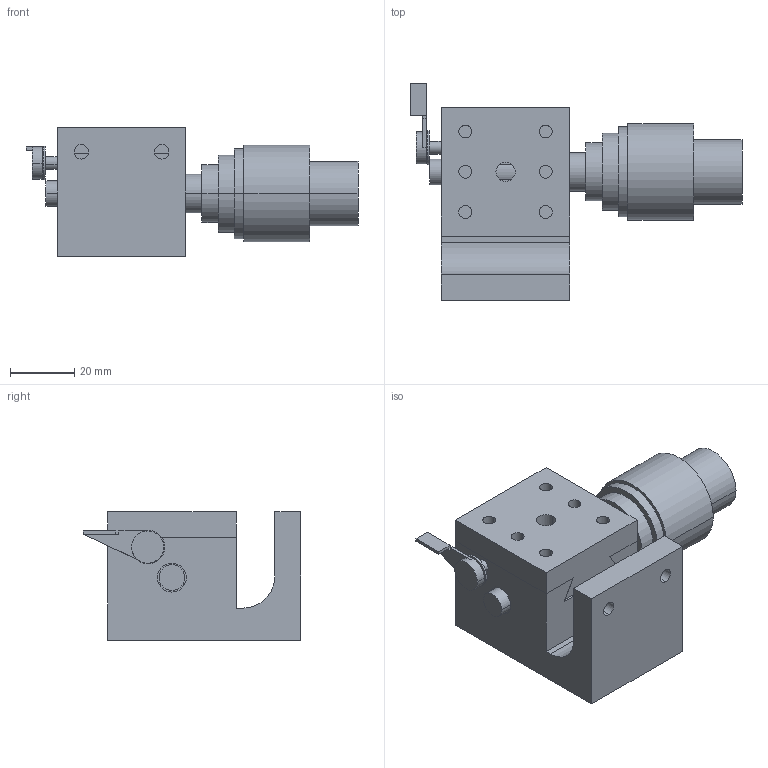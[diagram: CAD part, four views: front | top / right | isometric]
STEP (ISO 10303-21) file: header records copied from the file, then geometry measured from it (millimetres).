
FILE_DESCRIPTION (( 'STEP AP203' ), '1' );
FILE_NAME ('LV-412S.STEP', '2008-03-03T08:44:33', ( '' ), ( '' ), 'SwSTEP 2.0', 'SolidWorks 2007', '' );
FILE_SCHEMA (( 'CONFIG_CONTROL_DESIGN' ));
Length unit declared in the file: millimetre
Products named in the file (3): LV-412S-1; LV-412S-2; LV-412S
Assembly tree (2 placements, depth 2):
  LV-412S
    LV-412S-2
    LV-412S-1
Bounding box: 103.2 x 67.5 x 40 mm (x, y, z)
Volume: 106282.1 mm3; surface area: 26261.5 mm2
Topology: 2 solids, 2 shells, 102 faces, 249 edges, 165 vertices
Faces by surface type: plane 56, cylinder 46
Entity records: 3363 total; most frequent: DIRECTION 554, CARTESIAN_POINT 527, ORIENTED_EDGE 498, EDGE_CURVE 249, AXIS2_PLACEMENT_3D 200, VERTEX_POINT 165, VECTOR 154, LINE 154
